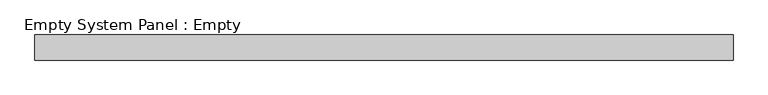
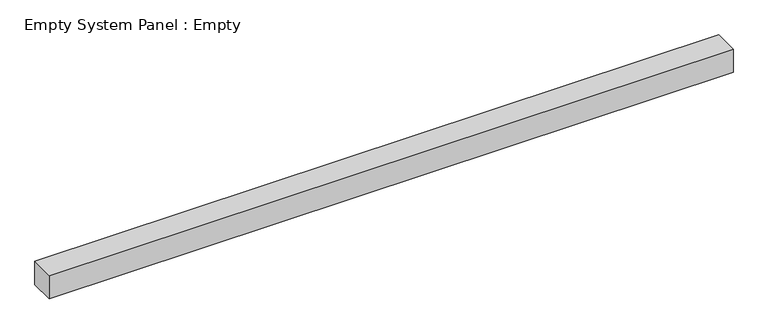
"""IFC4 building model written with IfcOpenShell, lengths in millimetres: plate geometry, Empty System Panel : Empty."""

from ifc_helpers import new_model, si_unit, origin, origin_with_axes, place, context, project, spatial, polyline, outline, extrude, source, transform, mapped, element, save


def empty_system_panel_empty_150c7ecc(model_context):
    return source(origin(), model_context, "Body", "SweptSolid", [
        extrude(outline(polyline([(1391.25, -50.0), (-1391.25, -50.0), (-1391.25, 50.0), (1391.25, 50.0), (1391.25, -50.0)])), origin_with_axes(), (0.0, 0.0, 1.0), 100.0),
    ])


if __name__ == "__main__":
    model = new_model("IFC4")
    model_context = context("Model", 3, world=origin())
    ifc_project = project(units=[si_unit("LENGTHUNIT", "METRE", prefix="MILLI")], contexts=[model_context])
    site = spatial("IfcSite", under=ifc_project)
    building = spatial("IfcBuilding", under=site)
    placement = place(None, origin())
    empty_system_panel_empty_shape = empty_system_panel_empty_150c7ecc(model_context)
    element("IfcPlate", 1, ObjectType="Empty System Panel : Empty", at=placement, inside=building, context=model_context, shape_type="MappedRepresentation", body=[
        mapped(empty_system_panel_empty_shape, transform((0.0, 0.0, 0.0), x_axis=(1.0, 0.0, 0.0), y_axis=(0.0, 1.0, 0.0), z_axis=(0.0, 0.0, 1.0))),
    ])
    save(model, "model.ifc")
